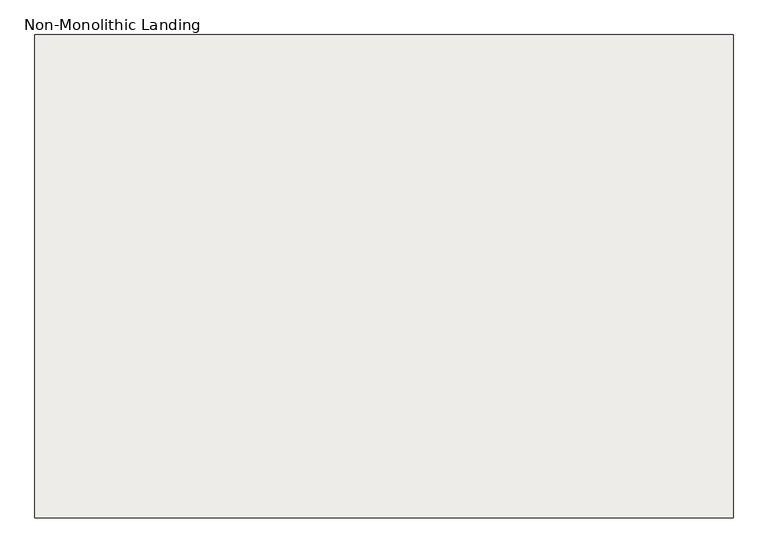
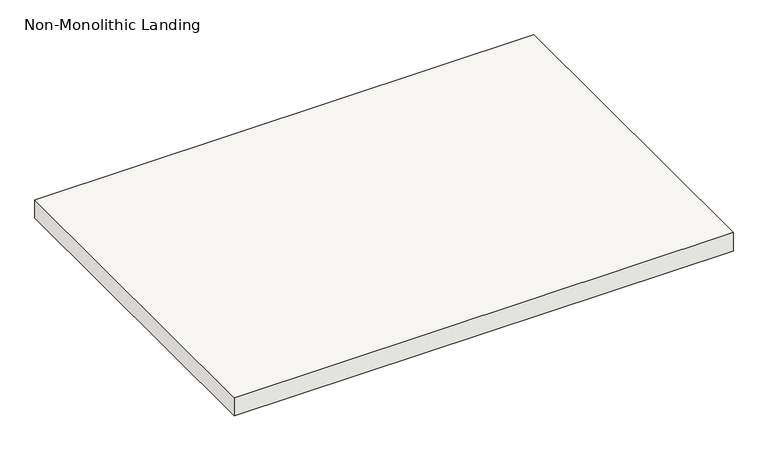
"""IFC4 building model written with IfcOpenShell, lengths in millimetres: slab geometry, Non-Monolithic Landing."""

from ifc_helpers import new_model, si_unit, frame, origin, place, context, project, spatial, polyline, outline, extrude, source, transform, mapped, element, save


def non_monolithic_landing_3735fff0(model_context):
    return source(origin(), model_context, "Body", "SweptSolid", [
        extrude(outline(polyline([(112702.0882982, -18034.2120358), (114022.8882982, -18034.2120358), (114022.8882982, -18948.6120358), (112702.0882982, -18948.6120358), (112702.0882982, -18034.2120358)])), frame((0.0, 0.0, 2126.3428571), z_axis=(0.0, 0.0, 1.0), x_axis=(1.0, 0.0, 0.0)), (0.0, 0.0, 1.0), 50.8),
    ])


if __name__ == "__main__":
    model = new_model("IFC4")
    model_context = context("Model", 3, world=origin())
    ifc_project = project(units=[si_unit("LENGTHUNIT", "METRE", prefix="MILLI")], contexts=[model_context])
    site = spatial("IfcSite", under=ifc_project)
    building = spatial("IfcBuilding", under=site)
    placement = place(None, origin())
    non_monolithic_landing_shape = non_monolithic_landing_3735fff0(model_context)
    element("IfcSlab", 1, ObjectType="Non-Monolithic Landing", at=placement, inside=building, context=model_context, shape_type="MappedRepresentation", body=[
        mapped(non_monolithic_landing_shape, transform((0.0, 0.0, 0.0), x_axis=(1.0, 0.0, 0.0), y_axis=(0.0, 1.0, 0.0), z_axis=(0.0, 0.0, 1.0))),
    ])
    save(model, "model.ifc")
